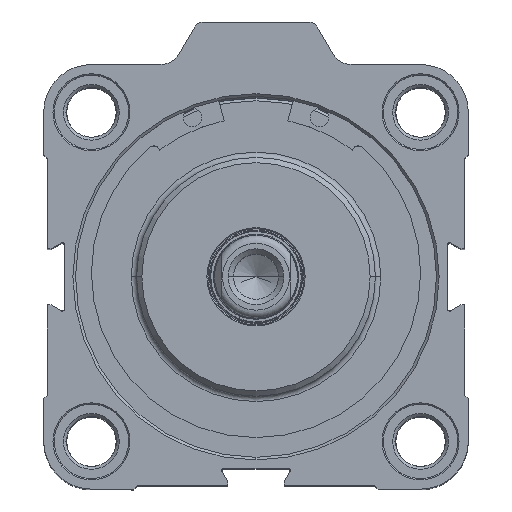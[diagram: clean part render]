
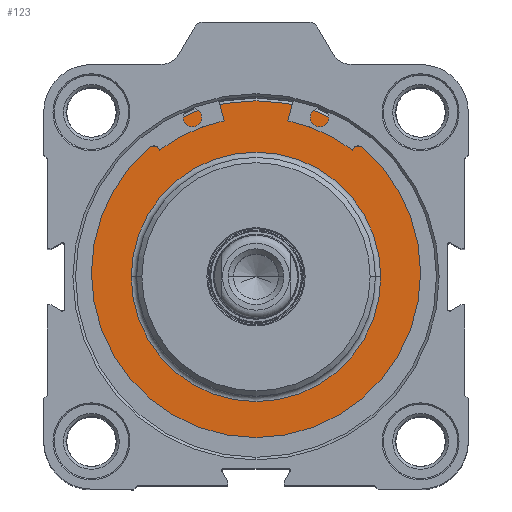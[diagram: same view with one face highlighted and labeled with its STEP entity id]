
A CAD part, top view. The second image highlights one B-rep face of the part: STEP entity #123.
In plain terms, the highlighted planar face has unit normal (0, 0, 1) as drawn and (-1, 0, 0) by its records, which use the part's own axes.
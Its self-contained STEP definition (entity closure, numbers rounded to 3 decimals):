
#123 = ADVANCED_FACE ( 'NONE', ( #10195, #8008 ), #6363, .F. ) ;
#566 = DIRECTION ( 'NONE',  ( -1., 0., 0. ) ) ;
#729 = AXIS2_PLACEMENT_3D ( 'NONE', #10251, #4641, #12141 ) ;
#1012 = ORIENTED_EDGE ( 'NONE', *, *, #8952, .F. ) ;
#1446 = AXIS2_PLACEMENT_3D ( 'NONE', #9156, #566, #5270 ) ;
#1719 = ORIENTED_EDGE ( 'NONE', *, *, #5962, .T. ) ;
#1801 = EDGE_CURVE ( 'NONE', #10561, #11265, #5483, .T. ) ;
#1842 = CARTESIAN_POINT ( 'NONE',  ( 5.5, 0., 0. ) ) ;
#2405 = EDGE_LOOP ( 'NONE', ( #3923, #1012 ) ) ;
#2635 = DIRECTION ( 'NONE',  ( 1., 0., 0. ) ) ;
#2651 = VERTEX_POINT ( 'NONE', #5681 ) ;
#2664 = DIRECTION ( 'NONE',  ( 0., 0., -1. ) ) ;
#2697 = CARTESIAN_POINT ( 'NONE',  ( 5.5, 33.675, 0. ) ) ;
#2842 = DIRECTION ( 'NONE',  ( -1., 0., 0. ) ) ;
#3011 = CARTESIAN_POINT ( 'NONE',  ( 5.5, 0., 33.175 ) ) ;
#3312 = VERTEX_POINT ( 'NONE', #5239 ) ;
#3507 = AXIS2_PLACEMENT_3D ( 'NONE', #4859, #2842, #3804 ) ;
#3679 = CIRCLE ( 'NONE', #9375, 23.5 ) ;
#3804 = DIRECTION ( 'NONE',  ( 0., 0., 1. ) ) ;
#3923 = ORIENTED_EDGE ( 'NONE', *, *, #10626, .F. ) ;
#4348 = ORIENTED_EDGE ( 'NONE', *, *, #1801, .T. ) ;
#4641 = DIRECTION ( 'NONE',  ( -1., 0., 0. ) ) ;
#4859 = CARTESIAN_POINT ( 'NONE',  ( 5.5, 0., 0. ) ) ;
#5239 = CARTESIAN_POINT ( 'NONE',  ( 5.5, 0., -23.5 ) ) ;
#5270 = DIRECTION ( 'NONE',  ( 0., 0., -1. ) ) ;
#5483 = CIRCLE ( 'NONE', #1446, 33.175 ) ;
#5681 = CARTESIAN_POINT ( 'NONE',  ( 5.5, 0., 23.5 ) ) ;
#5962 = EDGE_CURVE ( 'NONE', #11265, #10561, #7851, .T. ) ;
#6363 = PLANE ( 'NONE',  #11636 ) ;
#6514 = DIRECTION ( 'NONE',  ( -1., 0., 0. ) ) ;
#6767 = CARTESIAN_POINT ( 'NONE',  ( 5.5, 0., -33.175 ) ) ;
#7851 = CIRCLE ( 'NONE', #729, 33.175 ) ;
#8008 = FACE_BOUND ( 'NONE', #2405, .T. ) ;
#8952 = EDGE_CURVE ( 'NONE', #3312, #2651, #3679, .T. ) ;
#9156 = CARTESIAN_POINT ( 'NONE',  ( 5.5, 0., 0. ) ) ;
#9375 = AXIS2_PLACEMENT_3D ( 'NONE', #1842, #6514, #10429 ) ;
#9962 = EDGE_LOOP ( 'NONE', ( #1719, #4348 ) ) ;
#10195 = FACE_OUTER_BOUND ( 'NONE', #9962, .T. ) ;
#10251 = CARTESIAN_POINT ( 'NONE',  ( 5.5, 0., 0. ) ) ;
#10429 = DIRECTION ( 'NONE',  ( 0., 0., 1. ) ) ;
#10561 = VERTEX_POINT ( 'NONE', #3011 ) ;
#10626 = EDGE_CURVE ( 'NONE', #2651, #3312, #11583, .T. ) ;
#11265 = VERTEX_POINT ( 'NONE', #6767 ) ;
#11583 = CIRCLE ( 'NONE', #3507, 23.5 ) ;
#11636 = AXIS2_PLACEMENT_3D ( 'NONE', #2697, #2635, #2664 ) ;
#12141 = DIRECTION ( 'NONE',  ( 0., 0., -1. ) ) ;
